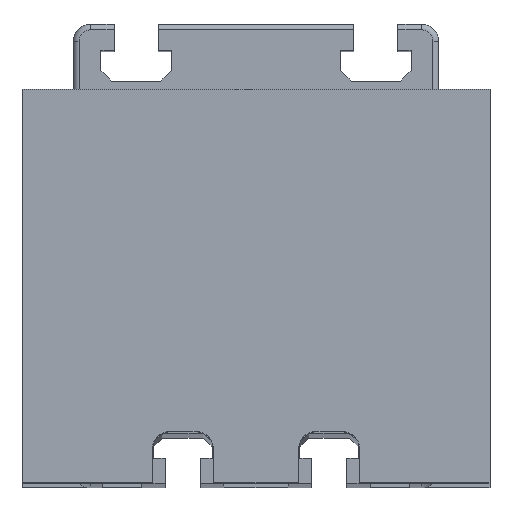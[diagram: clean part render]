
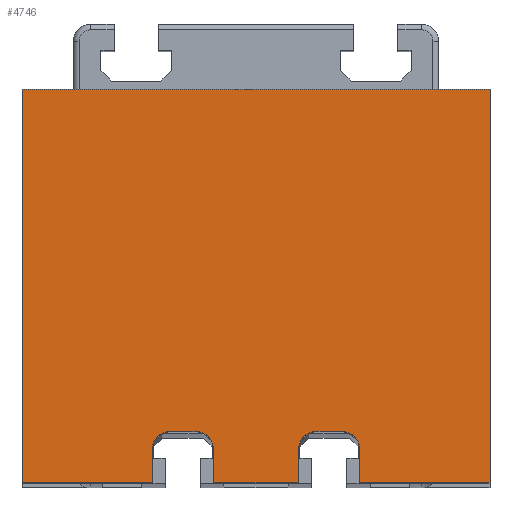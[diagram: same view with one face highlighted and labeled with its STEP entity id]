
A CAD part, top view. The second image highlights one B-rep face of the part: STEP entity #4746.
In plain terms, the highlighted planar face has unit normal (0, 0, 1).
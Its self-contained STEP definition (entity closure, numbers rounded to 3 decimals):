
#13 = LINE ( 'NONE', #6517, #2263 ) ;
#110 = CARTESIAN_POINT ( 'NONE',  ( 14.5, 11.5, 0. ) ) ;
#221 = VERTEX_POINT ( 'NONE', #867 ) ;
#224 = DIRECTION ( 'NONE',  ( 0., 0., -1. ) ) ;
#271 = CARTESIAN_POINT ( 'NONE',  ( -80., 0., 0. ) ) ;
#367 = CARTESIAN_POINT ( 'NONE',  ( 80., 0., 0. ) ) ;
#447 = DIRECTION ( 'NONE',  ( 1., 0., 0. ) ) ;
#449 = ORIENTED_EDGE ( 'NONE', *, *, #3172, .T. ) ;
#481 = EDGE_CURVE ( 'NONE', #4265, #4577, #2950, .T. ) ;
#504 = DIRECTION ( 'NONE',  ( 0., 1., 0. ) ) ;
#526 = AXIS2_PLACEMENT_3D ( 'NONE', #5152, #224, #5038 ) ;
#543 = VECTOR ( 'NONE', #1721, 1000. ) ;
#565 = VERTEX_POINT ( 'NONE', #676 ) ;
#600 = CARTESIAN_POINT ( 'NONE',  ( -80., 0., 0. ) ) ;
#676 = CARTESIAN_POINT ( 'NONE',  ( 20.5, 17.5, 0. ) ) ;
#698 = DIRECTION ( 'NONE',  ( 0., 0., 1. ) ) ;
#721 = ORIENTED_EDGE ( 'NONE', *, *, #481, .T. ) ;
#725 = CARTESIAN_POINT ( 'NONE',  ( 35.5, 11.5, 0. ) ) ;
#867 = CARTESIAN_POINT ( 'NONE',  ( 14.5, 0., 0. ) ) ;
#871 = VERTEX_POINT ( 'NONE', #3330 ) ;
#881 = VECTOR ( 'NONE', #2477, 1000. ) ;
#886 = DIRECTION ( 'NONE',  ( 1., 0., 0. ) ) ;
#949 = ORIENTED_EDGE ( 'NONE', *, *, #6789, .T. ) ;
#979 = VERTEX_POINT ( 'NONE', #6121 ) ;
#995 = VECTOR ( 'NONE', #504, 1000. ) ;
#1022 = DIRECTION ( 'NONE',  ( 0., 0., -1. ) ) ;
#1081 = ORIENTED_EDGE ( 'NONE', *, *, #2561, .T. ) ;
#1108 = CARTESIAN_POINT ( 'NONE',  ( -35.5, 0., 0. ) ) ;
#1216 = EDGE_CURVE ( 'NONE', #979, #2137, #7052, .T. ) ;
#1246 = EDGE_CURVE ( 'NONE', #3667, #2571, #3251, .T. ) ;
#1266 = VERTEX_POINT ( 'NONE', #3146 ) ;
#1297 = ORIENTED_EDGE ( 'NONE', *, *, #6843, .T. ) ;
#1300 = CARTESIAN_POINT ( 'NONE',  ( -80., 134.5, 0. ) ) ;
#1490 = DIRECTION ( 'NONE',  ( 1., 0., 0. ) ) ;
#1532 = EDGE_CURVE ( 'NONE', #565, #6726, #5824, .T. ) ;
#1592 = EDGE_CURVE ( 'NONE', #221, #2659, #2707, .T. ) ;
#1619 = ORIENTED_EDGE ( 'NONE', *, *, #1592, .T. ) ;
#1633 = DIRECTION ( 'NONE',  ( 0., -1., 0. ) ) ;
#1651 = CARTESIAN_POINT ( 'NONE',  ( -35.5, 0., 0. ) ) ;
#1670 = VECTOR ( 'NONE', #1816, 1000. ) ;
#1721 = DIRECTION ( 'NONE',  ( 0., 1., 0. ) ) ;
#1780 = PLANE ( 'NONE',  #7048 ) ;
#1816 = DIRECTION ( 'NONE',  ( -1., 0., 0. ) ) ;
#1858 = FACE_OUTER_BOUND ( 'NONE', #3408, .T. ) ;
#2031 = CARTESIAN_POINT ( 'NONE',  ( 29.5, 17.5, 0. ) ) ;
#2102 = ORIENTED_EDGE ( 'NONE', *, *, #6053, .T. ) ;
#2137 = VERTEX_POINT ( 'NONE', #6199 ) ;
#2141 = CIRCLE ( 'NONE', #526, 6. ) ;
#2148 = VECTOR ( 'NONE', #2273, 1000. ) ;
#2157 = DIRECTION ( 'NONE',  ( 1., 0., 0. ) ) ;
#2206 = CARTESIAN_POINT ( 'NONE',  ( 14.5, 0., 0. ) ) ;
#2263 = VECTOR ( 'NONE', #447, 1000. ) ;
#2273 = DIRECTION ( 'NONE',  ( 0., 1., 0. ) ) ;
#2326 = VERTEX_POINT ( 'NONE', #6341 ) ;
#2363 = VERTEX_POINT ( 'NONE', #725 ) ;
#2477 = DIRECTION ( 'NONE',  ( 0., -1., 0. ) ) ;
#2499 = AXIS2_PLACEMENT_3D ( 'NONE', #2502, #5790, #886 ) ;
#2502 = CARTESIAN_POINT ( 'NONE',  ( 29.5, 11.5, 0. ) ) ;
#2517 = EDGE_CURVE ( 'NONE', #6726, #2363, #6400, .T. ) ;
#2561 = EDGE_CURVE ( 'NONE', #4855, #979, #7080, .T. ) ;
#2571 = VERTEX_POINT ( 'NONE', #367 ) ;
#2585 = VECTOR ( 'NONE', #1633, 1000. ) ;
#2659 = VERTEX_POINT ( 'NONE', #110 ) ;
#2707 = LINE ( 'NONE', #2206, #995 ) ;
#2728 = ORIENTED_EDGE ( 'NONE', *, *, #1532, .T. ) ;
#2759 = CARTESIAN_POINT ( 'NONE',  ( 20.5, 11.5, 0. ) ) ;
#2902 = CARTESIAN_POINT ( 'NONE',  ( 29.5, 11.5, 0. ) ) ;
#2950 = LINE ( 'NONE', #5593, #4991 ) ;
#2968 = LINE ( 'NONE', #1300, #1670 ) ;
#3069 = EDGE_CURVE ( 'NONE', #2571, #1266, #3230, .T. ) ;
#3146 = CARTESIAN_POINT ( 'NONE',  ( 80., 134.5, 0. ) ) ;
#3172 = EDGE_CURVE ( 'NONE', #2137, #221, #4093, .T. ) ;
#3230 = LINE ( 'NONE', #3333, #543 ) ;
#3251 = LINE ( 'NONE', #5482, #6499 ) ;
#3291 = CARTESIAN_POINT ( 'NONE',  ( -35.5, 11.5, 0. ) ) ;
#3330 = CARTESIAN_POINT ( 'NONE',  ( -29.5, 17.5, 0. ) ) ;
#3333 = CARTESIAN_POINT ( 'NONE',  ( 80., 0., 0. ) ) ;
#3386 = CIRCLE ( 'NONE', #6942, 6. ) ;
#3408 = EDGE_LOOP ( 'NONE', ( #5745, #721, #4727, #3706, #1297, #1081, #7091, #449, #1619, #949, #2728, #5670, #2102, #5374, #5289, #4155 ) ) ;
#3463 = CARTESIAN_POINT ( 'NONE',  ( -14.5, 0., 0. ) ) ;
#3667 = VERTEX_POINT ( 'NONE', #4823 ) ;
#3706 = ORIENTED_EDGE ( 'NONE', *, *, #6605, .T. ) ;
#3780 = CARTESIAN_POINT ( 'NONE',  ( 35.5, 0., 0. ) ) ;
#4017 = DIRECTION ( 'NONE',  ( 1., 0., 0. ) ) ;
#4079 = DIRECTION ( 'NONE',  ( 1., 0., 0. ) ) ;
#4093 = LINE ( 'NONE', #3463, #4332 ) ;
#4155 = ORIENTED_EDGE ( 'NONE', *, *, #5174, .T. ) ;
#4180 = EDGE_CURVE ( 'NONE', #4577, #6367, #5051, .T. ) ;
#4260 = LINE ( 'NONE', #3780, #2585 ) ;
#4265 = VERTEX_POINT ( 'NONE', #600 ) ;
#4332 = VECTOR ( 'NONE', #6841, 1000. ) ;
#4398 = DIRECTION ( 'NONE',  ( 1., 0., 0. ) ) ;
#4433 = EDGE_CURVE ( 'NONE', #2326, #4265, #5197, .T. ) ;
#4577 = VERTEX_POINT ( 'NONE', #1108 ) ;
#4727 = ORIENTED_EDGE ( 'NONE', *, *, #4180, .T. ) ;
#4746 = ADVANCED_FACE ( 'NONE', ( #1858 ), #1780, .T. ) ;
#4823 = CARTESIAN_POINT ( 'NONE',  ( 35.5, 0., 0. ) ) ;
#4855 = VERTEX_POINT ( 'NONE', #5157 ) ;
#4857 = DIRECTION ( 'NONE',  ( 0., 0., -1. ) ) ;
#4865 = DIRECTION ( 'NONE',  ( 0., -1., 0. ) ) ;
#4867 = VECTOR ( 'NONE', #4865, 1000. ) ;
#4991 = VECTOR ( 'NONE', #4017, 1000. ) ;
#5038 = DIRECTION ( 'NONE',  ( -1., 0., 0. ) ) ;
#5051 = LINE ( 'NONE', #1651, #2148 ) ;
#5131 = AXIS2_PLACEMENT_3D ( 'NONE', #6512, #1022, #6408 ) ;
#5152 = CARTESIAN_POINT ( 'NONE',  ( -29.5, 11.5, 0. ) ) ;
#5157 = CARTESIAN_POINT ( 'NONE',  ( -20.5, 17.5, 0. ) ) ;
#5174 = EDGE_CURVE ( 'NONE', #1266, #2326, #2968, .T. ) ;
#5197 = LINE ( 'NONE', #271, #881 ) ;
#5289 = ORIENTED_EDGE ( 'NONE', *, *, #3069, .T. ) ;
#5290 = CARTESIAN_POINT ( 'NONE',  ( 29.5, 17.5, 0. ) ) ;
#5374 = ORIENTED_EDGE ( 'NONE', *, *, #1246, .T. ) ;
#5439 = CARTESIAN_POINT ( 'NONE',  ( -14.5, 0., 0. ) ) ;
#5482 = CARTESIAN_POINT ( 'NONE',  ( 35.5, 0., 0. ) ) ;
#5593 = CARTESIAN_POINT ( 'NONE',  ( -80., 0., 0. ) ) ;
#5670 = ORIENTED_EDGE ( 'NONE', *, *, #2517, .T. ) ;
#5745 = ORIENTED_EDGE ( 'NONE', *, *, #4433, .T. ) ;
#5790 = DIRECTION ( 'NONE',  ( 0., 0., -1. ) ) ;
#5824 = LINE ( 'NONE', #2031, #6951 ) ;
#6053 = EDGE_CURVE ( 'NONE', #2363, #3667, #4260, .T. ) ;
#6121 = CARTESIAN_POINT ( 'NONE',  ( -14.5, 11.5, 0. ) ) ;
#6199 = CARTESIAN_POINT ( 'NONE',  ( -14.5, 0., 0. ) ) ;
#6341 = CARTESIAN_POINT ( 'NONE',  ( -80., 134.5, 0. ) ) ;
#6367 = VERTEX_POINT ( 'NONE', #3291 ) ;
#6400 = CIRCLE ( 'NONE', #2499, 6. ) ;
#6408 = DIRECTION ( 'NONE',  ( -1., 0., 0. ) ) ;
#6499 = VECTOR ( 'NONE', #2157, 1000. ) ;
#6512 = CARTESIAN_POINT ( 'NONE',  ( -20.5, 11.5, 0. ) ) ;
#6517 = CARTESIAN_POINT ( 'NONE',  ( -29.5, 17.5, 0. ) ) ;
#6605 = EDGE_CURVE ( 'NONE', #6367, #871, #2141, .T. ) ;
#6726 = VERTEX_POINT ( 'NONE', #5290 ) ;
#6789 = EDGE_CURVE ( 'NONE', #2659, #565, #3386, .T. ) ;
#6841 = DIRECTION ( 'NONE',  ( 1., 0., 0. ) ) ;
#6843 = EDGE_CURVE ( 'NONE', #871, #4855, #13, .T. ) ;
#6942 = AXIS2_PLACEMENT_3D ( 'NONE', #2759, #4857, #4398 ) ;
#6951 = VECTOR ( 'NONE', #1490, 1000. ) ;
#7048 = AXIS2_PLACEMENT_3D ( 'NONE', #2902, #698, #4079 ) ;
#7052 = LINE ( 'NONE', #5439, #4867 ) ;
#7080 = CIRCLE ( 'NONE', #5131, 6. ) ;
#7091 = ORIENTED_EDGE ( 'NONE', *, *, #1216, .T. ) ;
